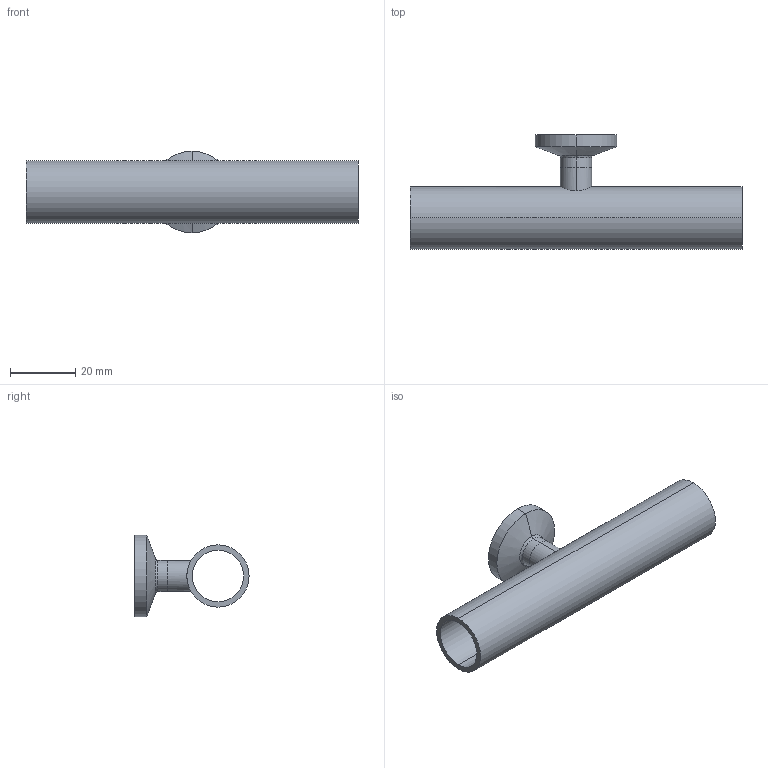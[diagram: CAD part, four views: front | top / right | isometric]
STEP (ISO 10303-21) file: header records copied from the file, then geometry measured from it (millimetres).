
FILE_DESCRIPTION (( 'STEP AP214' ), '1' );
FILE_NAME ('TE7RWWCS6L.75x.375-...STEP', '2016-05-23T10:47:15', ( 'eran' ), ( '' ), 'SwSTEP 2.0', 'SolidWorks 2016', '' );
FILE_SCHEMA (( 'AUTOMOTIVE_DESIGN' ));
Length unit declared in the file: millimetre
Products named in the file (1): TE7RWWCS6L.75x.375-..
Bounding box: 101.6 x 34.92 x 24.99 mm (x, y, z)
Volume: 11119.1 mm3; surface area: 13248.9 mm2
Topology: 2 solids, 2 shells, 34 faces, 70 edges, 42 vertices
Faces by surface type: cylinder 16, bspline 8, plane 6, cone 4
Entity records: 1175 total; most frequent: CARTESIAN_POINT 415, DIRECTION 158, ORIENTED_EDGE 140, EDGE_CURVE 70, AXIS2_PLACEMENT_3D 69, EDGE_LOOP 42, VERTEX_POINT 42, CIRCLE 42
